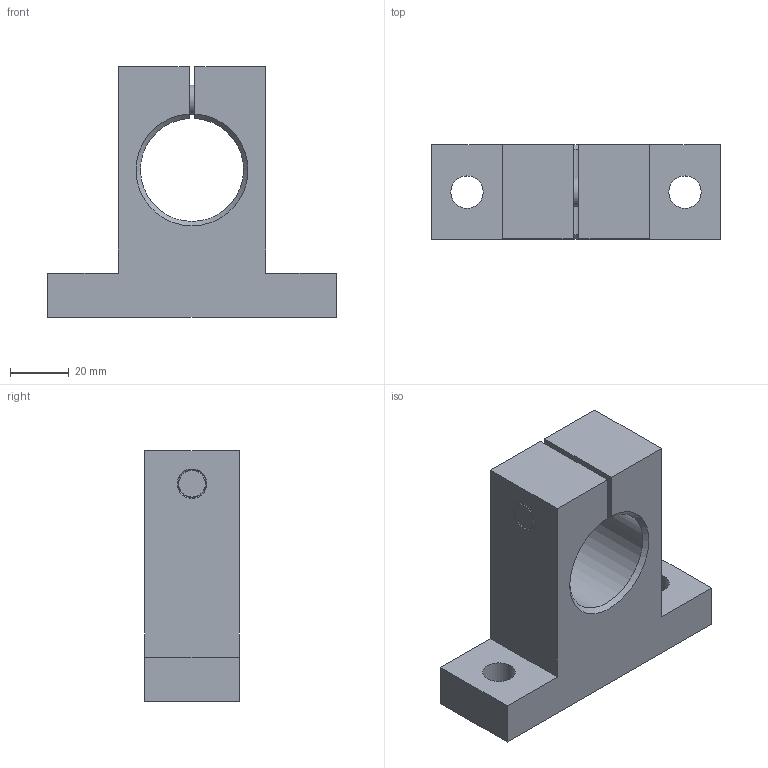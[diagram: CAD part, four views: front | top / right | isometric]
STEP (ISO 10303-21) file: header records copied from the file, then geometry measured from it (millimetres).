
FILE_DESCRIPTION( ( 'Unknown' ), '1' );
FILE_NAME( 'D:/累诀/己绕皋墨飘肺葱胶/11-04-06_档搁累己/04_箕橇飘/SK/SK 35.stp', 'Unknown', ( 'Unknown' ), ( 'Unknown' ), 'PSStep 11.0', 'Unknown', ' ' );
FILE_SCHEMA( ( 'AUTOMOTIVE_DESIGN { 1 0 10303 214 1 1 1 1 }' ) );
Length unit declared in the file: millimetre
Products named in the file (1): 1
Bounding box: 98 x 32 x 85 mm (x, y, z)
Volume: 124116.4 mm3; surface area: 25106.1 mm2
Topology: 1 solids, 1 shells, 38 faces, 93 edges, 62 vertices
Faces by surface type: plane 24, cylinder 8, cone 5, torus 1
Full cylindrical faces by diameter (mm): 4.16 x1, 10 x2, 11 x3, 11.22 x1
Entity records: 1368 total; most frequent: CARTESIAN_POINT 188, DIRECTION 174, ORIENTED_EDGE 156, EDGE_CURVE 78, AXIS2_PLACEMENT_3D 61, EDGE_LOOP 60, VERTEX_POINT 59, LINE 52
